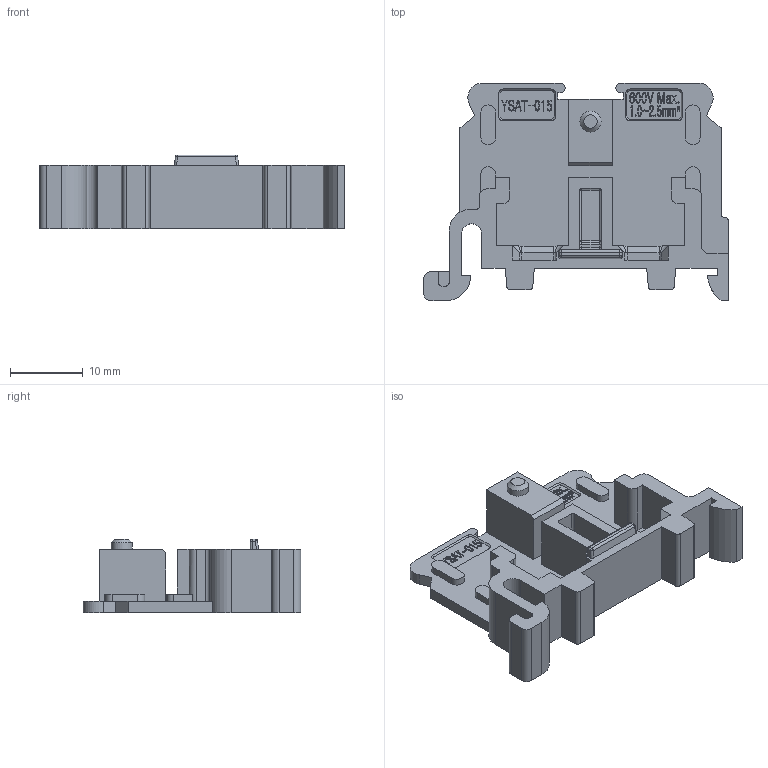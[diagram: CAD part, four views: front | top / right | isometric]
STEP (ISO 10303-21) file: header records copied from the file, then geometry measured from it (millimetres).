
FILE_DESCRIPTION(/* description */ (''),/* implementation_level */ '2;1');
FILE_NAME(/* name */ 'Y:\카다로그-외형도 관련\step-file 외형도\AT\AT015-01ZA.stp',/* time_stamp */ '2016-11-10T17:44:45+09:00',/* author */ ('Jangkb'),/* organization */ (''),/* preprocessor_version */ 'ST-DEVELOPER v16.1',/* originating_system */ 'Autodesk Inventor 2016',/* authorisation */ '');
FILE_SCHEMA (('AUTOMOTIVE_DESIGN { 1 0 10303 214 3 1 1 }'));
Length unit declared in the file: millimetre
Products named in the file (1): 터미널블럭 15A
Bounding box: 42 x 30 x 10.2 mm (x, y, z)
Volume: 3367.8 mm3; surface area: 4268.8 mm2
Topology: 1 solids, 1 shells, 1399 faces, 3887 edges, 2563 vertices
Faces by surface type: bspline 916, plane 359, cylinder 87, sphere 20, cone 13, torus 4
Full cylindrical faces by diameter (mm): 2.9 x1
Entity records: 45801 total; most frequent: CARTESIAN_POINT 16164, ORIENTED_EDGE 7770, EDGE_CURVE 3885, DIRECTION 3223, VERTEX_POINT 2563, LINE 1851, VECTOR 1851, B_SPLINE_CURVE_WITH_KNOTS 1832
